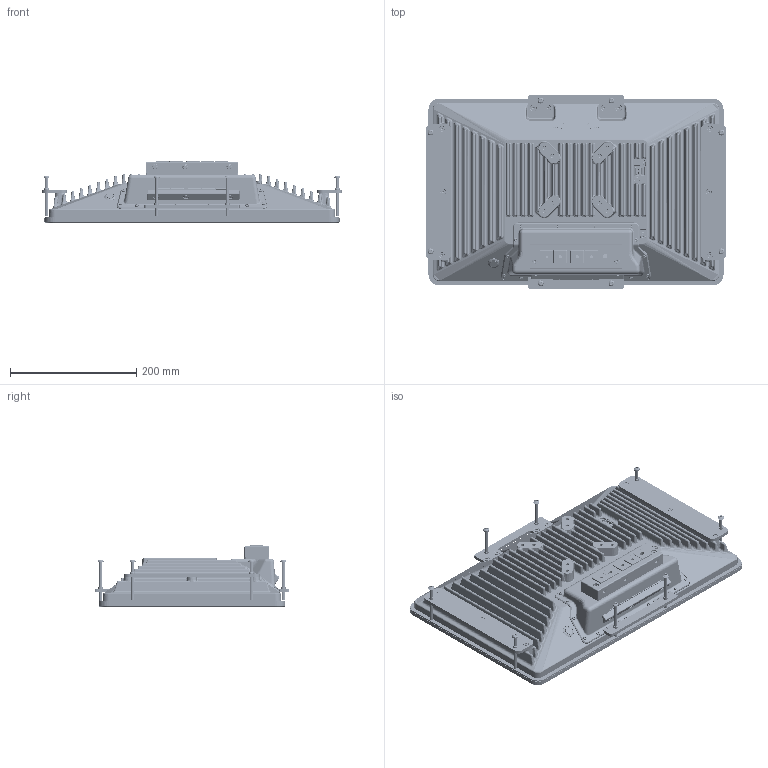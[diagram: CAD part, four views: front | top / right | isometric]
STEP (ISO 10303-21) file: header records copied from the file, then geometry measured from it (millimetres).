
FILE_DESCRIPTION(/* description */ (''),/* implementation_level */ '2;1');
FILE_NAME(/* name */ 'D:\Modelle vereinfacht\notion.A\notion.A3\18,5 Zoll\778-21975-00\778-21975-00_EXTERN.stp',/* time_stamp */ '2023-07-11T08:44:39+02:00',/* author */ ('Blessing'),/* organization */ (''),/* preprocessor_version */ 'ST-DEVELOPER v18.1',/* originating_system */ 'Autodesk Inventor 2021',/* authorisation */ '');
FILE_SCHEMA (('CONFIG_CONTROL_DESIGN'));
Products named in the file (5): Baugruppe4; 778-21975-00_EXTERN; 778-90173_EXTERN; 778-90175_EXTERN; 778-90176_EXTERN
Assembly tree (4 placements, depth 2):
  Baugruppe4
    778-21975-00_EXTERN
    778-90173_EXTERN
    778-90175_EXTERN
    778-90176_EXTERN
Bounding box: 475 x 308 x 99.3 mm (x, y, z)
Volume: 5764751.3 mm3; surface area: 1101845.6 mm2
Topology: 8 solids, 16 shells, 18663 faces, 50927 edges, 32328 vertices
Faces by surface type: plane 11709, cylinder 4457, bspline 1238, cone 832, sphere 229, torus 198
Full cylindrical faces by diameter (mm): 0.35 x28, 0.4 x36, 0.5 x140, 0.6 x3, 0.609 x1, 0.65 x8, 0.8 x1, 0.95 x9, 1.1 x2, 1.2 x6, 1.422 x16, 2 x3, 2.156 x2, 2.459 x24, 2.5 x2, 2.794 x2, 2.8 x4, 3 x37, 3.15 x2, 3.2 x2, 3.242 x6, 3.5 x9, 3.7 x14, 3.783 x2, 3.998 x2, 4 x24, 4.134 x8, 4.22 x8, 4.3 x8, 4.5 x6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
Entity records: 674070 total; most frequent: CARTESIAN_POINT 186865, ORIENTED_EDGE 101404, DIRECTION 91517, EDGE_CURVE 50702, LINE 36457, VECTOR 36457, VERTEX_POINT 32328, AXIS2_PLACEMENT_3D 27530
